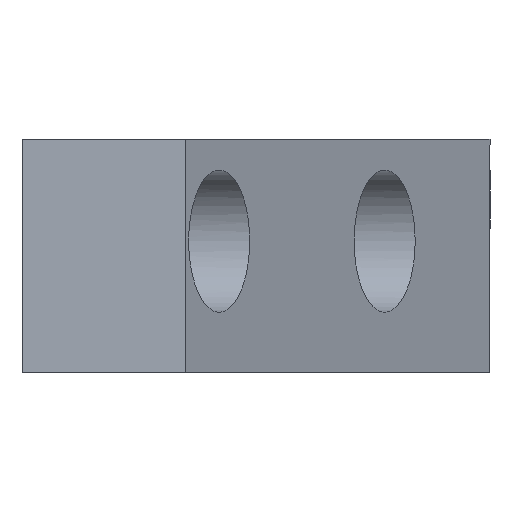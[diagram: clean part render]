
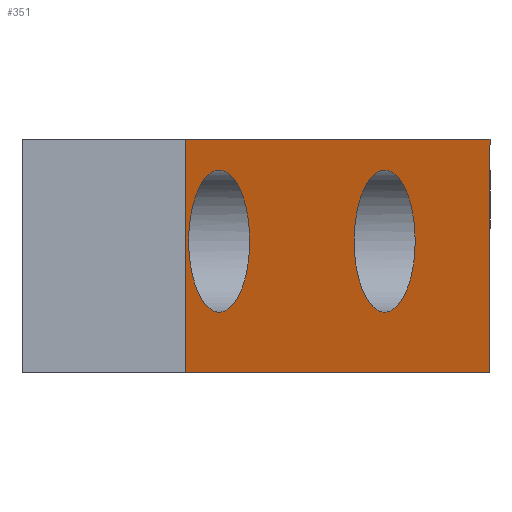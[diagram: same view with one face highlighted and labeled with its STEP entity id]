
A CAD part, left-side view. The second image highlights one B-rep face of the part: STEP entity #351.
In plain terms, the highlighted planar face has unit normal (-0.394, -0.919, 0) as drawn and (-0.394, 0, 0.919) by its records, which use the part's own axes.
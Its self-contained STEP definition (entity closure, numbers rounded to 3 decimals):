
#19=ELLIPSE('',#383,3.808,3.5);
#20=ELLIPSE('',#385,3.808,3.5);
#33=LINE('',#565,#62);
#44=LINE('',#595,#73);
#46=LINE('',#599,#75);
#47=LINE('',#600,#76);
#62=VECTOR('',#465,10.);
#73=VECTOR('',#494,10.);
#75=VECTOR('',#498,10.);
#76=VECTOR('',#499,10.);
#95=FACE_BOUND('',#140,.T.);
#96=FACE_BOUND('',#141,.T.);
#114=FACE_OUTER_BOUND('',#139,.T.);
#139=EDGE_LOOP('',(#295,#296,#297,#298));
#140=EDGE_LOOP('',(#299));
#141=EDGE_LOOP('',(#300));
#166=VERTEX_POINT('',#537);
#167=VERTEX_POINT('',#541);
#174=VERTEX_POINT('',#562);
#175=VERTEX_POINT('',#564);
#185=VERTEX_POINT('',#594);
#186=VERTEX_POINT('',#598);
#197=EDGE_CURVE('',#166,#166,#19,.T.);
#199=EDGE_CURVE('',#167,#167,#20,.T.);
#210=EDGE_CURVE('',#175,#174,#33,.T.);
#225=EDGE_CURVE('',#175,#185,#44,.T.);
#227=EDGE_CURVE('',#186,#174,#46,.T.);
#228=EDGE_CURVE('',#185,#186,#47,.T.);
#295=ORIENTED_EDGE('',*,*,#210,.T.);
#296=ORIENTED_EDGE('',*,*,#227,.F.);
#297=ORIENTED_EDGE('',*,*,#228,.F.);
#298=ORIENTED_EDGE('',*,*,#225,.F.);
#299=ORIENTED_EDGE('',*,*,#197,.T.);
#300=ORIENTED_EDGE('',*,*,#199,.T.);
#331=PLANE('',#402);
#351=ADVANCED_FACE('',(#114,#95,#96),#331,.T.);
#383=AXIS2_PLACEMENT_3D('',#538,#437,#438);
#385=AXIS2_PLACEMENT_3D('',#542,#442,#443);
#402=AXIS2_PLACEMENT_3D('',#597,#496,#497);
#437=DIRECTION('center_axis',(0.394,0.,-0.919));
#438=DIRECTION('ref_axis',(0.919,0.,0.394));
#442=DIRECTION('center_axis',(0.394,0.,-0.919));
#443=DIRECTION('ref_axis',(0.919,0.,0.394));
#465=DIRECTION('',(0.919,0.,0.394));
#494=DIRECTION('',(0.,1.,0.));
#496=DIRECTION('center_axis',(-0.394,0.,0.919));
#497=DIRECTION('ref_axis',(0.919,0.,0.394));
#498=DIRECTION('',(0.,-1.,0.));
#499=DIRECTION('',(0.919,0.,0.394));
#537=CARTESIAN_POINT('',(-183.5,21.,-286.533));
#538=CARTESIAN_POINT('Origin',(-180.,21.,-285.033));
#541=CARTESIAN_POINT('',(-202.5,21.,-294.676));
#542=CARTESIAN_POINT('Origin',(-199.,21.,-293.176));
#562=CARTESIAN_POINT('',(-167.902,14.518,-279.848));
#564=CARTESIAN_POINT('',(-202.902,14.518,-294.848));
#565=CARTESIAN_POINT('',(-187.816,14.518,-288.382));
#594=CARTESIAN_POINT('',(-202.902,26.018,-294.848));
#595=CARTESIAN_POINT('',(-202.902,81.005,-294.848));
#597=CARTESIAN_POINT('Origin',(-202.902,10.018,-294.848));
#598=CARTESIAN_POINT('',(-167.902,26.018,-279.848));
#599=CARTESIAN_POINT('',(-167.902,10.018,-279.848));
#600=CARTESIAN_POINT('',(-202.902,26.018,-294.848));
